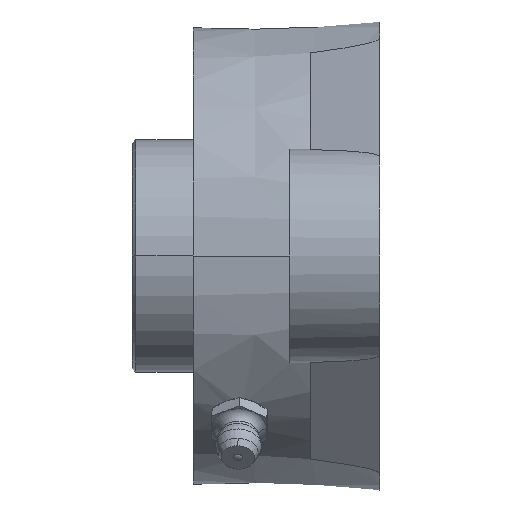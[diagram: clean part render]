
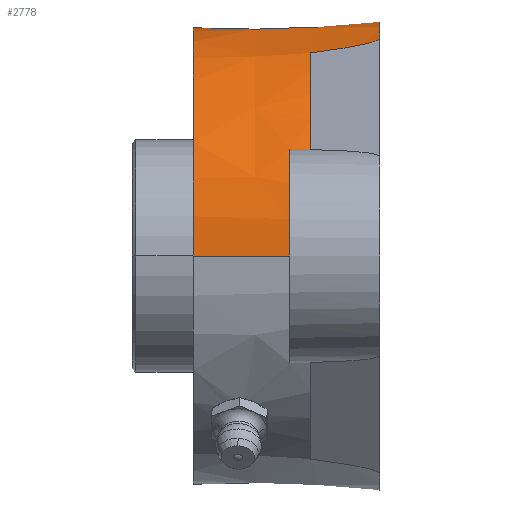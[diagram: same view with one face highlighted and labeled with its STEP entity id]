
A CAD part, left-side view. The second image highlights one B-rep face of the part: STEP entity #2778.
In plain terms, the highlighted conical face has half-angle 2 degrees and reference radius 33.529 mm.
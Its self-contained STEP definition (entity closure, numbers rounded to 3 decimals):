
#12 = EDGE_CURVE ( 'NONE', #252, #3264, #1965, .T. ) ;
#13 = LINE ( 'NONE', #3045, #1306 ) ;
#30 = EDGE_CURVE ( 'NONE', #2863, #911, #3062, .T. ) ;
#45 = EDGE_CURVE ( 'NONE', #494, #313, #858, .T. ) ;
#61 = CARTESIAN_POINT ( 'NONE',  ( 12.707, 0., 31.536 ) ) ;
#155 = ORIENTED_EDGE ( 'NONE', *, *, #45, .T. ) ;
#170 = LINE ( 'NONE', #2927, #3354 ) ;
#176 = ORIENTED_EDGE ( 'NONE', *, *, #819, .F. ) ;
#236 = ORIENTED_EDGE ( 'NONE', *, *, #30, .F. ) ;
#252 = VERTEX_POINT ( 'NONE', #2431 ) ;
#268 = CARTESIAN_POINT ( 'NONE',  ( 16.346, 10., 29.414 ) ) ;
#298 = EDGE_CURVE ( 'NONE', #2863, #494, #2089, .T. ) ;
#313 = VERTEX_POINT ( 'NONE', #1511 ) ;
#314 = CONICAL_SURFACE ( 'NONE', #2340, 33.529, 0.035 ) ;
#337 = DIRECTION ( 'NONE',  ( -1., 0., 0. ) ) ;
#428 = FACE_OUTER_BOUND ( 'NONE', #526, .T. ) ;
#455 = VERTEX_POINT ( 'NONE', #61 ) ;
#460 = DIRECTION ( 'NONE',  ( -0.035, -0.999, 0. ) ) ;
#477 = CARTESIAN_POINT ( 'NONE',  ( -29.868, 10., 15.5 ) ) ;
#494 = VERTEX_POINT ( 'NONE', #505 ) ;
#502 = EDGE_CURVE ( 'NONE', #3504, #2238, #170, .T. ) ;
#505 = CARTESIAN_POINT ( 'NONE',  ( 29.75, 13., 15.5 ) ) ;
#526 = EDGE_LOOP ( 'NONE', ( #686, #176, #1407, #2328, #673, #2307, #1279, #1729, #1375, #236, #3002, #155 ) ) ;
#543 = DIRECTION ( 'NONE',  ( 0., -1., 0. ) ) ;
#655 = EDGE_CURVE ( 'NONE', #2243, #313, #13, .T. ) ;
#673 = ORIENTED_EDGE ( 'NONE', *, *, #1558, .T. ) ;
#686 = ORIENTED_EDGE ( 'NONE', *, *, #655, .F. ) ;
#698 = DIRECTION ( 'NONE',  ( -1., 0., 0. ) ) ;
#737 = DIRECTION ( 'NONE',  ( -1., 0., 0. ) ) ;
#810 = CARTESIAN_POINT ( 'NONE',  ( -15.23, 3.349, 30.3 ) ) ;
#819 = EDGE_CURVE ( 'NONE', #3504, #2243, #3388, .T. ) ;
#858 = CIRCLE ( 'NONE', #972, 33.546 ) ;
#911 = VERTEX_POINT ( 'NONE', #1458 ) ;
#932 = CARTESIAN_POINT ( 'NONE',  ( 29.809, 11.503, 15.5 ) ) ;
#952 = AXIS2_PLACEMENT_3D ( 'NONE', #1643, #2266, #3581 ) ;
#972 = AXIS2_PLACEMENT_3D ( 'NONE', #3281, #1692, #2480 ) ;
#976 = CARTESIAN_POINT ( 'NONE',  ( 0., 13., 0. ) ) ;
#1032 = DIRECTION ( 'NONE',  ( 0., 1., 0. ) ) ;
#1061 = CARTESIAN_POINT ( 'NONE',  ( -33.546, 13., 0. ) ) ;
#1091 = CARTESIAN_POINT ( 'NONE',  ( 14.011, 0., 31.011 ) ) ;
#1145 = CARTESIAN_POINT ( 'NONE',  ( -14.011, 0., 31.011 ) ) ;
#1212 = EDGE_CURVE ( 'NONE', #911, #455, #1948, .T. ) ;
#1254 = DIRECTION ( 'NONE',  ( 0., -1., 0. ) ) ;
#1265 = CARTESIAN_POINT ( 'NONE',  ( -29.809, 11.503, 15.5 ) ) ;
#1279 = ORIENTED_EDGE ( 'NONE', *, *, #3455, .F. ) ;
#1306 = VECTOR ( 'NONE', #1943, 1000. ) ;
#1375 = ORIENTED_EDGE ( 'NONE', *, *, #1212, .F. ) ;
#1407 = ORIENTED_EDGE ( 'NONE', *, *, #502, .T. ) ;
#1458 = CARTESIAN_POINT ( 'NONE',  ( 16.346, 10., 29.414 ) ) ;
#1461 = CARTESIAN_POINT ( 'NONE',  ( 29.868, 10., 15.5 ) ) ;
#1511 = CARTESIAN_POINT ( 'NONE',  ( 33.546, 13., 0. ) ) ;
#1558 = EDGE_CURVE ( 'NONE', #2871, #3264, #2695, .T. ) ;
#1643 = CARTESIAN_POINT ( 'NONE',  ( 0., 27., 0. ) ) ;
#1692 = DIRECTION ( 'NONE',  ( 0., 1., 0. ) ) ;
#1700 = AXIS2_PLACEMENT_3D ( 'NONE', #976, #1032, #698 ) ;
#1729 = ORIENTED_EDGE ( 'NONE', *, *, #3166, .T. ) ;
#1912 = AXIS2_PLACEMENT_3D ( 'NONE', #3296, #3082, #337 ) ;
#1925 = DIRECTION ( 'NONE',  ( -1., 0., 0. ) ) ;
#1940 = CARTESIAN_POINT ( 'NONE',  ( 33.057, 27., 0. ) ) ;
#1943 = DIRECTION ( 'NONE',  ( 0.035, -0.999, 0. ) ) ;
#1948 =( BOUNDED_CURVE ( )  B_SPLINE_CURVE ( 3, ( #268, #1951, #1091, #1966 ),
 .UNSPECIFIED., .F., .T. ) 
 B_SPLINE_CURVE_WITH_KNOTS ( ( 4, 4 ),
 ( 6.045, 6.283 ),
 .UNSPECIFIED. ) 
 CURVE ( )  GEOMETRIC_REPRESENTATION_ITEM ( )  RATIONAL_B_SPLINE_CURVE ( ( 1., 0.995, 0.995, 1. ) ) 
 REPRESENTATION_ITEM ( '' )  );
#1951 = CARTESIAN_POINT ( 'NONE',  ( 15.23, 3.349, 30.3 ) ) ;
#1962 = CARTESIAN_POINT ( 'NONE',  ( 0., 10., 0. ) ) ;
#1965 = CIRCLE ( 'NONE', #1912, 33.651 ) ;
#1966 = CARTESIAN_POINT ( 'NONE',  ( 12.707, 0., 31.536 ) ) ;
#2038 = CARTESIAN_POINT ( 'NONE',  ( 29.868, 10., 15.5 ) ) ;
#2089 =( BOUNDED_CURVE ( )  B_SPLINE_CURVE ( 2, ( #2038, #932, #2866 ),
 .UNSPECIFIED., .F., .T. ) 
 B_SPLINE_CURVE_WITH_KNOTS ( ( 3, 3 ),
 ( 9.988, 13.01 ),
 .UNSPECIFIED. ) 
 CURVE ( )  GEOMETRIC_REPRESENTATION_ITEM ( )  RATIONAL_B_SPLINE_CURVE ( ( 1., 1., 1. ) ) 
 REPRESENTATION_ITEM ( '' )  );
#2132 = CARTESIAN_POINT ( 'NONE',  ( 0., 0., 0. ) ) ;
#2238 = VERTEX_POINT ( 'NONE', #1061 ) ;
#2243 = VERTEX_POINT ( 'NONE', #1940 ) ;
#2266 = DIRECTION ( 'NONE',  ( 0., 1., 0. ) ) ;
#2307 = ORIENTED_EDGE ( 'NONE', *, *, #12, .F. ) ;
#2328 = ORIENTED_EDGE ( 'NONE', *, *, #2834, .T. ) ;
#2340 = AXIS2_PLACEMENT_3D ( 'NONE', #2931, #1254, #737 ) ;
#2431 = CARTESIAN_POINT ( 'NONE',  ( -16.346, 10., 29.414 ) ) ;
#2475 = AXIS2_PLACEMENT_3D ( 'NONE', #2132, #2996, #3292 ) ;
#2480 = DIRECTION ( 'NONE',  ( -1., 0., 0. ) ) ;
#2485 = CARTESIAN_POINT ( 'NONE',  ( -12.707, 0., 31.536 ) ) ;
#2538 = CIRCLE ( 'NONE', #2475, 34. ) ;
#2598 =( BOUNDED_CURVE ( )  B_SPLINE_CURVE ( 3, ( #2485, #1145, #810, #2802 ),
 .UNSPECIFIED., .F., .F. ) 
 B_SPLINE_CURVE_WITH_KNOTS ( ( 4, 4 ),
 ( 3.142, 3.379 ),
 .UNSPECIFIED. ) 
 CURVE ( )  GEOMETRIC_REPRESENTATION_ITEM ( )  RATIONAL_B_SPLINE_CURVE ( ( 1., 0.995, 0.995, 1. ) ) 
 REPRESENTATION_ITEM ( '' )  );
#2695 =( BOUNDED_CURVE ( )  B_SPLINE_CURVE ( 2, ( #2706, #1265, #477 ),
 .UNSPECIFIED., .F., .T. ) 
 B_SPLINE_CURVE_WITH_KNOTS ( ( 3, 3 ),
 ( 0., 3.022 ),
 .UNSPECIFIED. ) 
 CURVE ( )  GEOMETRIC_REPRESENTATION_ITEM ( )  RATIONAL_B_SPLINE_CURVE ( ( 1., 1., 1. ) ) 
 REPRESENTATION_ITEM ( '' )  );
#2706 = CARTESIAN_POINT ( 'NONE',  ( -29.75, 13., 15.5 ) ) ;
#2728 = AXIS2_PLACEMENT_3D ( 'NONE', #1962, #543, #1925 ) ;
#2778 = ADVANCED_FACE ( 'NONE', ( #428 ), #314, .T. ) ;
#2802 = CARTESIAN_POINT ( 'NONE',  ( -16.346, 10., 29.414 ) ) ;
#2834 = EDGE_CURVE ( 'NONE', #2238, #2871, #3259, .T. ) ;
#2863 = VERTEX_POINT ( 'NONE', #1461 ) ;
#2866 = CARTESIAN_POINT ( 'NONE',  ( 29.75, 13., 15.5 ) ) ;
#2871 = VERTEX_POINT ( 'NONE', #3017 ) ;
#2927 = CARTESIAN_POINT ( 'NONE',  ( -33.529, 13.5, 0. ) ) ;
#2931 = CARTESIAN_POINT ( 'NONE',  ( 0., 13.5, 0. ) ) ;
#2996 = DIRECTION ( 'NONE',  ( 0., 1., 0. ) ) ;
#3002 = ORIENTED_EDGE ( 'NONE', *, *, #298, .T. ) ;
#3017 = CARTESIAN_POINT ( 'NONE',  ( -29.75, 13., 15.5 ) ) ;
#3045 = CARTESIAN_POINT ( 'NONE',  ( 33.529, 13.5, 0. ) ) ;
#3052 = CARTESIAN_POINT ( 'NONE',  ( -33.057, 27., 0. ) ) ;
#3062 = CIRCLE ( 'NONE', #2728, 33.651 ) ;
#3082 = DIRECTION ( 'NONE',  ( 0., -1., 0. ) ) ;
#3166 = EDGE_CURVE ( 'NONE', #3462, #455, #2538, .T. ) ;
#3259 = CIRCLE ( 'NONE', #1700, 33.546 ) ;
#3264 = VERTEX_POINT ( 'NONE', #3382 ) ;
#3281 = CARTESIAN_POINT ( 'NONE',  ( 0., 13., 0. ) ) ;
#3292 = DIRECTION ( 'NONE',  ( 1., 0., 0. ) ) ;
#3296 = CARTESIAN_POINT ( 'NONE',  ( 0., 10., 0. ) ) ;
#3305 = CARTESIAN_POINT ( 'NONE',  ( -12.707, 0., 31.536 ) ) ;
#3354 = VECTOR ( 'NONE', #460, 1000. ) ;
#3382 = CARTESIAN_POINT ( 'NONE',  ( -29.868, 10., 15.5 ) ) ;
#3388 = CIRCLE ( 'NONE', #952, 33.057 ) ;
#3455 = EDGE_CURVE ( 'NONE', #3462, #252, #2598, .T. ) ;
#3462 = VERTEX_POINT ( 'NONE', #3305 ) ;
#3504 = VERTEX_POINT ( 'NONE', #3052 ) ;
#3581 = DIRECTION ( 'NONE',  ( -1., 0., 0. ) ) ;
